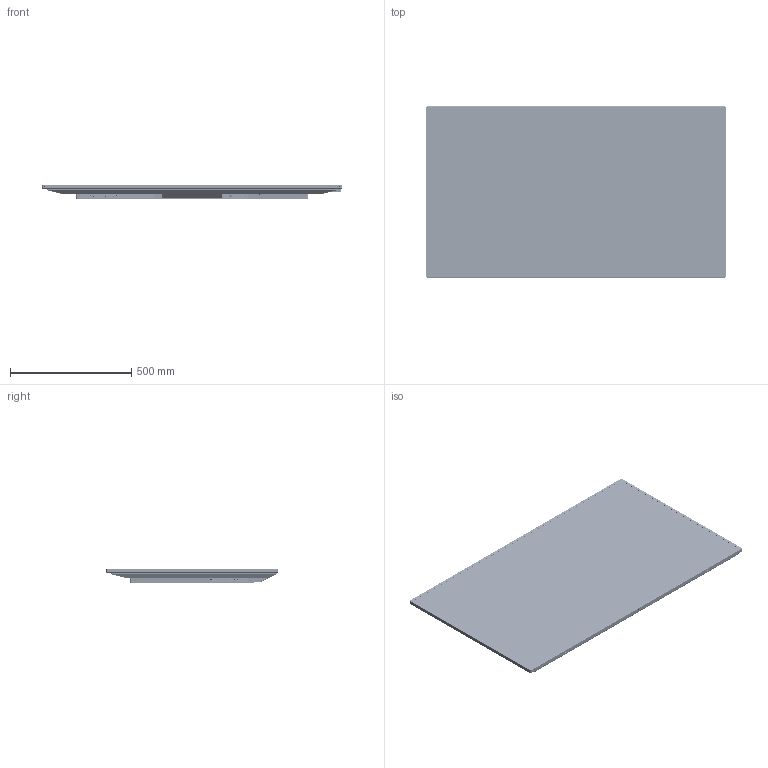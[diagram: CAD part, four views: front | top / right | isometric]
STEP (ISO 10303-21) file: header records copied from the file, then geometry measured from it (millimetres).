
FILE_DESCRIPTION (( 'STEP AP203' ), '1' );
FILE_NAME ('SLM552 Panel 3D 122023.STEP', '2023-12-21T16:53:58', ( '' ), ( '' ), 'SwSTEP 2.0', 'SolidWorks 2023', '' );
FILE_SCHEMA (( 'CONFIG_CONTROL_DESIGN' ));
Products named in the file (1): SLM552 Panel 3D 122023
Bounding box: 1235.4 x 706.2 x 60 mm (x, y, z)
Surface area: 6337336.4 mm2 (no closed solid volume)
Topology: 0 solids, 156 shells, 41844 faces, 119363 edges, 75593 vertices
Faces by surface type: plane 30423, cylinder 8497, bspline 1759, cone 575, torus 511, sphere 79
Entity records: 1502662 total; most frequent: CARTESIAN_POINT 439432, ORIENTED_EDGE 238146, DIRECTION 195345, EDGE_CURVE 119290, LINE 90721, VECTOR 90721, VERTEX_POINT 75591, AXIS2_PLACEMENT_3D 52312
